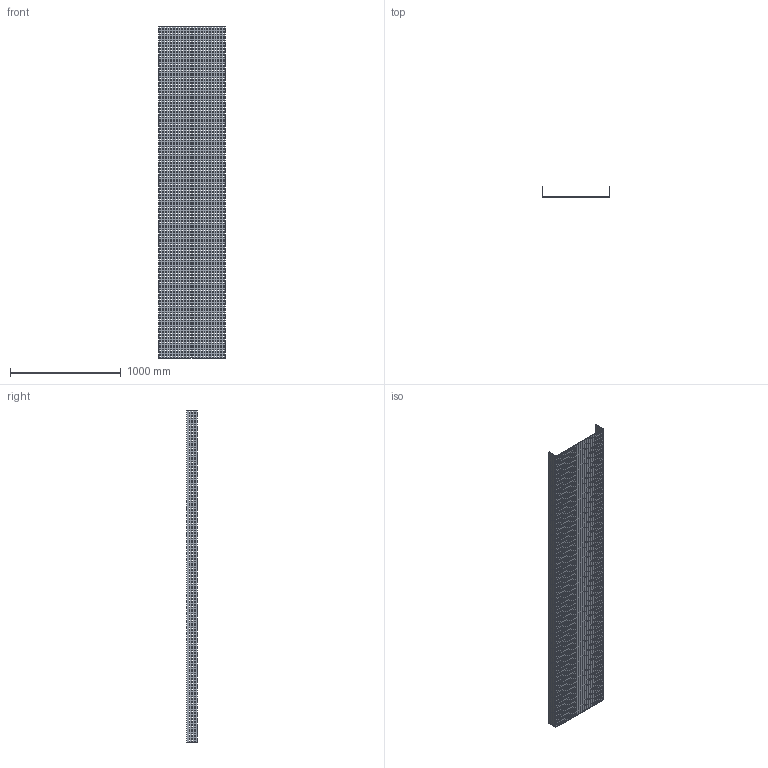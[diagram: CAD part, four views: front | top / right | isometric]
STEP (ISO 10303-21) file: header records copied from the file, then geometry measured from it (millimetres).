
FILE_DESCRIPTION (( 'STEP AP214' ), '1' );
FILE_NAME ('01B3I600.step', '2025-02-21T10:27:08', ( '' ), ( '' ), 'SwSTEP 2.0', 'SolidWorks 2023', '' );
FILE_SCHEMA (( 'AUTOMOTIVE_DESIGN' ));
Products named in the file (1): 01B3I600
Bounding box: 604 x 92.5 x 3000 mm (x, y, z)
Volume: 6888000 mm3; surface area: 4446314 mm2
Topology: 1 solids, 1 shells, 8650 faces, 25944 edges, 17296 vertices
Faces by surface type: plane 8650
Entity records: 294071 total; most frequent: CARTESIAN_POINT 51891, ORIENTED_EDGE 51888, DIRECTION 43246, LINE 25944, VECTOR 25944, EDGE_CURVE 25944, VERTEX_POINT 17296, EDGE_LOOP 12970
